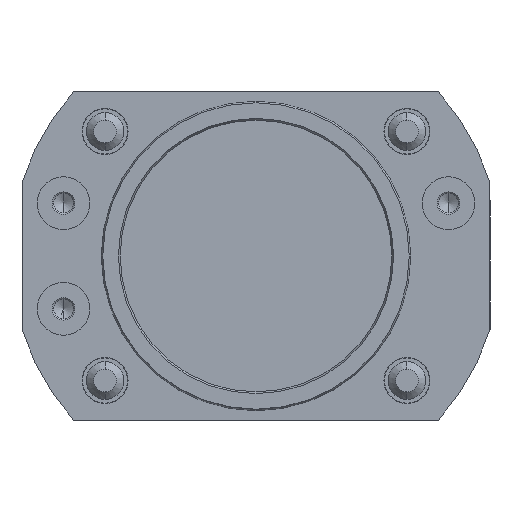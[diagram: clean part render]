
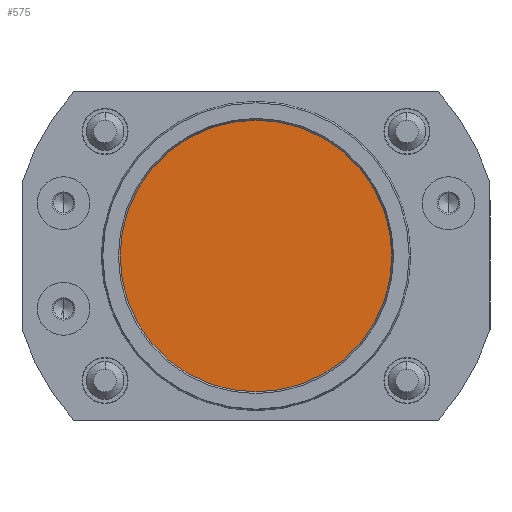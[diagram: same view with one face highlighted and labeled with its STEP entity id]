
A CAD part, front view. The second image highlights one B-rep face of the part: STEP entity #575.
In plain terms, the highlighted planar face has unit normal (0, -1, 0).
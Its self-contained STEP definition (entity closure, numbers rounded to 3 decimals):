
#564 = EDGE_LOOP ( 'NONE', ( #738, #566 ) ) ;
#566 = ORIENTED_EDGE ( 'NONE', *, *, #10084, .F. ) ;
#574 = EDGE_CURVE ( 'NONE', #1226, #5025, #1694, .T. ) ;
#575 = ADVANCED_FACE ( 'NONE', ( #1687 ), #1696, .T. ) ;
#738 = ORIENTED_EDGE ( 'NONE', *, *, #574, .F. ) ;
#1226 = VERTEX_POINT ( 'NONE', #2857 ) ;
#1654 = DIRECTION ( 'NONE',  ( 0., -1., 0. ) ) ;
#1683 = DIRECTION ( 'NONE',  ( 0., 0., -1. ) ) ;
#1687 = FACE_OUTER_BOUND ( 'NONE', #564, .T. ) ;
#1688 = DIRECTION ( 'NONE',  ( 0., 0., 1. ) ) ;
#1689 = DIRECTION ( 'NONE',  ( 0., 1., 0. ) ) ;
#1690 = CARTESIAN_POINT ( 'NONE',  ( 0., 3., 0. ) ) ;
#1691 = AXIS2_PLACEMENT_3D ( 'NONE', #1690, #1689, #1688 ) ;
#1694 = CIRCLE ( 'NONE', #1691, 18. ) ;
#1695 = CARTESIAN_POINT ( 'NONE',  ( 0., 3., 0. ) ) ;
#1696 = PLANE ( 'NONE',  #1697 ) ;
#1697 = AXIS2_PLACEMENT_3D ( 'NONE', #1695, #1654, #1683 ) ;
#2857 = CARTESIAN_POINT ( 'NONE',  ( 0., 3., 18. ) ) ;
#3063 = CARTESIAN_POINT ( 'NONE',  ( 0., 3., -18. ) ) ;
#5025 = VERTEX_POINT ( 'NONE', #3063 ) ;
#6858 = DIRECTION ( 'NONE',  ( 0., 0., 1. ) ) ;
#6859 = DIRECTION ( 'NONE',  ( 0., 1., 0. ) ) ;
#6860 = CARTESIAN_POINT ( 'NONE',  ( 0., 3., 0. ) ) ;
#6861 = AXIS2_PLACEMENT_3D ( 'NONE', #6860, #6859, #6858 ) ;
#6862 = CIRCLE ( 'NONE', #6861, 18. ) ;
#10084 = EDGE_CURVE ( 'NONE', #5025, #1226, #6862, .T. ) ;
